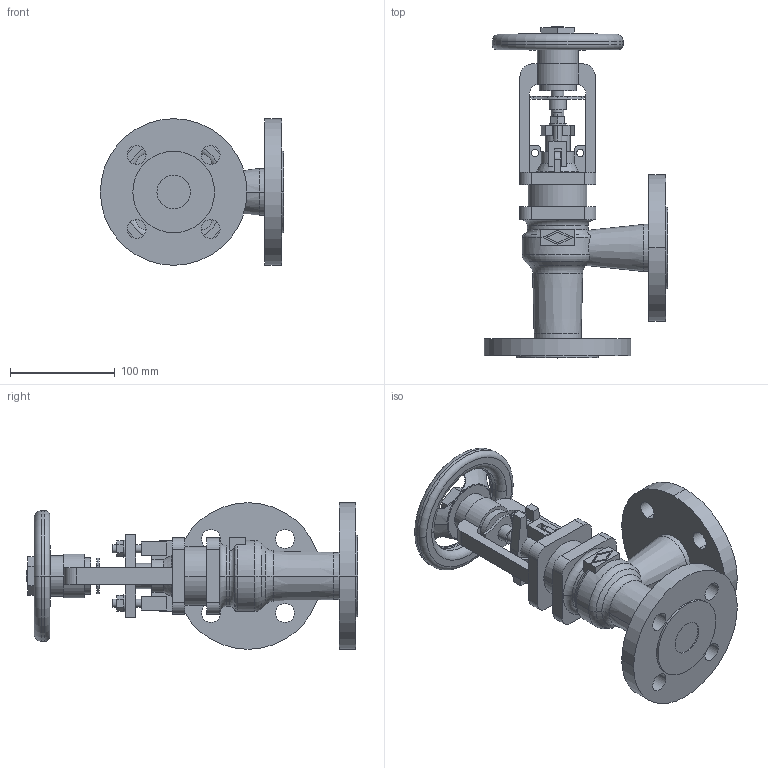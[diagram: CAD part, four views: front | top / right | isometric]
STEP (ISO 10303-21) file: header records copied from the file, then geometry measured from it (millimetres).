
FILE_DESCRIPTION(('OneSpaceDesigner STEP Export'),'2;1');
FILE_NAME('c000004448.stp','2010-05-17T 9:55:00',(''),(''),'OneSpace Designer STEP processor for AP214 (Solid Model)','OneSpace Modeling 15.50B 03-Nov-2007 (C) CoCreate Software GmbH','');
FILE_SCHEMA(('AUTOMOTIVE_DESIGN { 1 0 10303 214 1 1 1 1 }'));
Length unit declared in the file: millimetre
Products named in the file (1): 1
Bounding box: 175 x 317 x 140 mm (x, y, z)
Volume: 1255872.9 mm3; surface area: 194758.7 mm2
Topology: 1 solids, 1 shells, 297 faces, 787 edges, 515 vertices
Faces by surface type: plane 140, cylinder 115, torus 26, cone 16
Entity records: 11590 total; most frequent: CARTESIAN_POINT 2161, ORIENTED_EDGE 1574, DIRECTION 1321, EDGE_CURVE 787, VERTEX_POINT 515, AXIS2_PLACEMENT_3D 448, VECTOR 425, LINE 425
